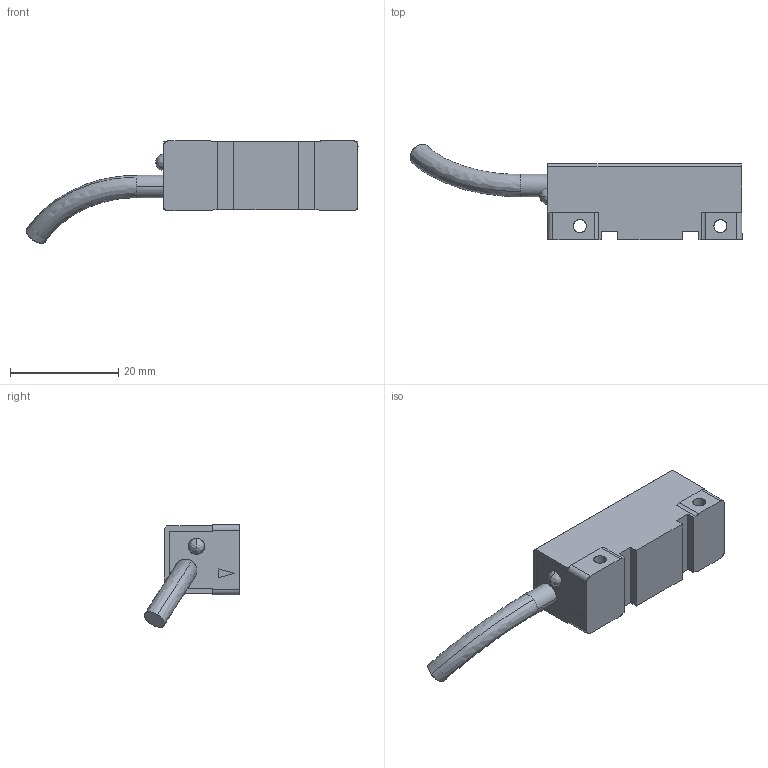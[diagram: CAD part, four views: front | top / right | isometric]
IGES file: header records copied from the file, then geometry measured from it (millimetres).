
Start section: SolidWorks IGES file using analytic representation for surfaces
Global section: file name: D:\Dokumenti\MOJI-DOKUMENTI2009-jan-jun\SWdatoteke\LM13\LM13-Bogen-mag-ringi\LM13-redhead.IGS; native system: SolidWorks 2009; preprocessor: SolidWorks 2009; author: cerar; date: 090519.141221; units: millimetre
Bounding box: 61.44 x 17.65 x 18.99 mm (x, y, z)
Surface area: 2861.9 mm2 (no closed solid volume)
Topology: 0 solids, 0 shells, 73 faces, 674 edges, 674 vertices
Faces by surface type: bspline 55, revolution 18
